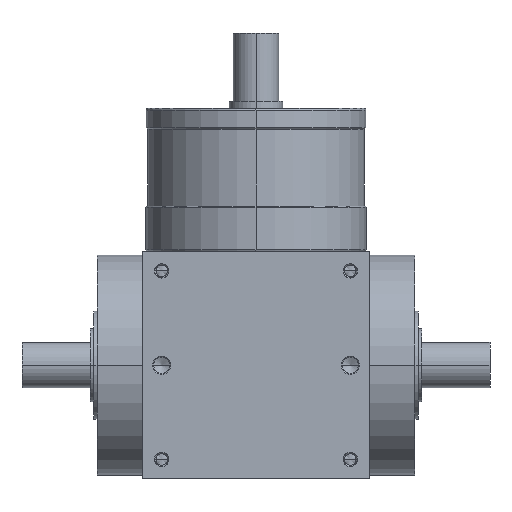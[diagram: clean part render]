
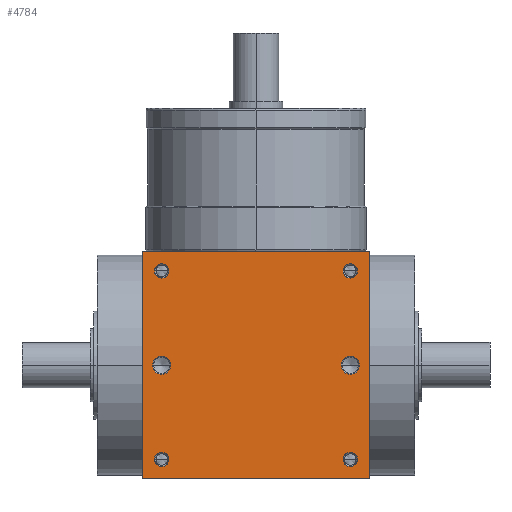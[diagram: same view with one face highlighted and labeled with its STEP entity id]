
A CAD part, front view. The second image highlights one B-rep face of the part: STEP entity #4784.
In plain terms, the highlighted planar face has unit normal (0, -1, 0).
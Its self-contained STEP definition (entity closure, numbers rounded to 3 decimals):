
#5=DIRECTION('',(1.,0.,0.));
#6=VECTOR('',#5,65.);
#7=CARTESIAN_POINT('',(-32.5,-32.5,-32.5));
#8=LINE('',#7,#6);
#155=DIRECTION('',(0.,0.,1.));
#156=VECTOR('',#155,65.);
#157=CARTESIAN_POINT('',(32.5,-32.5,-32.5));
#158=LINE('',#157,#156);
#209=DIRECTION('',(0.,0.,1.));
#210=VECTOR('',#209,65.);
#211=CARTESIAN_POINT('',(-32.5,-32.5,-32.5));
#212=LINE('',#211,#210);
#213=CARTESIAN_POINT('',(27.,-32.5,27.));
#214=DIRECTION('',(0.,1.,0.));
#215=DIRECTION('',(-1.,0.,0.));
#216=AXIS2_PLACEMENT_3D('',#213,#214,#215);
#218=CARTESIAN_POINT('',(27.,-32.5,27.));
#219=DIRECTION('',(0.,1.,0.));
#220=DIRECTION('',(1.,0.,0.));
#221=AXIS2_PLACEMENT_3D('',#218,#219,#220);
#223=CARTESIAN_POINT('',(-27.,-32.5,27.));
#224=DIRECTION('',(0.,1.,0.));
#225=DIRECTION('',(-1.,0.,0.));
#226=AXIS2_PLACEMENT_3D('',#223,#224,#225);
#228=CARTESIAN_POINT('',(-27.,-32.5,27.));
#229=DIRECTION('',(0.,1.,0.));
#230=DIRECTION('',(1.,0.,0.));
#231=AXIS2_PLACEMENT_3D('',#228,#229,#230);
#233=CARTESIAN_POINT('',(27.,-32.5,-27.));
#234=DIRECTION('',(0.,1.,0.));
#235=DIRECTION('',(-1.,0.,0.));
#236=AXIS2_PLACEMENT_3D('',#233,#234,#235);
#238=CARTESIAN_POINT('',(27.,-32.5,-27.));
#239=DIRECTION('',(0.,1.,0.));
#240=DIRECTION('',(1.,0.,0.));
#241=AXIS2_PLACEMENT_3D('',#238,#239,#240);
#243=CARTESIAN_POINT('',(-27.,-32.5,-27.));
#244=DIRECTION('',(0.,1.,0.));
#245=DIRECTION('',(-1.,0.,0.));
#246=AXIS2_PLACEMENT_3D('',#243,#244,#245);
#248=CARTESIAN_POINT('',(-27.,-32.5,-27.));
#249=DIRECTION('',(0.,1.,0.));
#250=DIRECTION('',(1.,0.,0.));
#251=AXIS2_PLACEMENT_3D('',#248,#249,#250);
#253=CARTESIAN_POINT('',(-27.,-32.5,0.));
#254=DIRECTION('',(0.,1.,0.));
#255=DIRECTION('',(1.,0.,0.));
#256=AXIS2_PLACEMENT_3D('',#253,#254,#255);
#258=CARTESIAN_POINT('',(-27.,-32.5,0.));
#259=DIRECTION('',(0.,1.,0.));
#260=DIRECTION('',(-1.,0.,0.));
#261=AXIS2_PLACEMENT_3D('',#258,#259,#260);
#263=CARTESIAN_POINT('',(27.,-32.5,0.));
#264=DIRECTION('',(0.,1.,0.));
#265=DIRECTION('',(1.,0.,0.));
#266=AXIS2_PLACEMENT_3D('',#263,#264,#265);
#268=CARTESIAN_POINT('',(27.,-32.5,0.));
#269=DIRECTION('',(0.,1.,0.));
#270=DIRECTION('',(-1.,0.,0.));
#271=AXIS2_PLACEMENT_3D('',#268,#269,#270);
#285=DIRECTION('',(1.,0.,0.));
#286=VECTOR('',#285,65.);
#287=CARTESIAN_POINT('',(-32.5,-32.5,32.5));
#288=LINE('',#287,#286);
#3820=CARTESIAN_POINT('',(-32.5,-32.5,-32.5));
#3822=VERTEX_POINT('',#3820);
#3823=CARTESIAN_POINT('',(32.5,-32.5,-32.5));
#3824=VERTEX_POINT('',#3823);
#3828=CARTESIAN_POINT('',(-32.5,-32.5,32.5));
#3830=VERTEX_POINT('',#3828);
#3831=CARTESIAN_POINT('',(32.5,-32.5,32.5));
#3832=VERTEX_POINT('',#3831);
#4011=CARTESIAN_POINT('',(24.95,-32.5,27.));
#4012=CARTESIAN_POINT('',(29.05,-32.5,27.));
#4013=VERTEX_POINT('',#4011);
#4014=VERTEX_POINT('',#4012);
#4019=CARTESIAN_POINT('',(-29.05,-32.5,27.));
#4020=CARTESIAN_POINT('',(-24.95,-32.5,27.));
#4021=VERTEX_POINT('',#4019);
#4022=VERTEX_POINT('',#4020);
#4027=CARTESIAN_POINT('',(24.95,-32.5,-27.));
#4028=CARTESIAN_POINT('',(29.05,-32.5,-27.));
#4029=VERTEX_POINT('',#4027);
#4030=VERTEX_POINT('',#4028);
#4035=CARTESIAN_POINT('',(-29.05,-32.5,-27.));
#4036=CARTESIAN_POINT('',(-24.95,-32.5,-27.));
#4037=VERTEX_POINT('',#4035);
#4038=VERTEX_POINT('',#4036);
#4395=CARTESIAN_POINT('',(-24.4,-32.5,0.));
#4396=CARTESIAN_POINT('',(-29.6,-32.5,0.));
#4397=VERTEX_POINT('',#4395);
#4398=VERTEX_POINT('',#4396);
#4403=CARTESIAN_POINT('',(29.6,-32.5,0.));
#4404=CARTESIAN_POINT('',(24.4,-32.5,0.));
#4405=VERTEX_POINT('',#4403);
#4406=VERTEX_POINT('',#4404);
#4736=CARTESIAN_POINT('',(-32.5,-32.5,-32.5));
#4737=DIRECTION('',(0.,-1.,0.));
#4738=DIRECTION('',(1.,0.,0.));
#4739=AXIS2_PLACEMENT_3D('',#4736,#4737,#4738);
#4740=PLANE('',#4739);
#4741=ORIENTED_EDGE('',*,*,#4576,.F.);
#4742=ORIENTED_EDGE('',*,*,#4619,.T.);
#4744=ORIENTED_EDGE('',*,*,#4743,.T.);
#4745=ORIENTED_EDGE('',*,*,#4698,.F.);
#4746=EDGE_LOOP('',(#4741,#4742,#4744,#4745));
#4747=FACE_OUTER_BOUND('',#4746,.F.);
#4749=ORIENTED_EDGE('',*,*,#4748,.F.);
#4751=ORIENTED_EDGE('',*,*,#4750,.F.);
#4752=EDGE_LOOP('',(#4749,#4751));
#4753=FACE_BOUND('',#4752,.F.);
#4755=ORIENTED_EDGE('',*,*,#4754,.F.);
#4757=ORIENTED_EDGE('',*,*,#4756,.F.);
#4758=EDGE_LOOP('',(#4755,#4757));
#4759=FACE_BOUND('',#4758,.F.);
#4761=ORIENTED_EDGE('',*,*,#4760,.F.);
#4763=ORIENTED_EDGE('',*,*,#4762,.F.);
#4764=EDGE_LOOP('',(#4761,#4763));
#4765=FACE_BOUND('',#4764,.F.);
#4767=ORIENTED_EDGE('',*,*,#4766,.F.);
#4769=ORIENTED_EDGE('',*,*,#4768,.F.);
#4770=EDGE_LOOP('',(#4767,#4769));
#4771=FACE_BOUND('',#4770,.F.);
#4773=ORIENTED_EDGE('',*,*,#4772,.F.);
#4775=ORIENTED_EDGE('',*,*,#4774,.F.);
#4776=EDGE_LOOP('',(#4773,#4775));
#4777=FACE_BOUND('',#4776,.F.);
#4779=ORIENTED_EDGE('',*,*,#4778,.F.);
#4781=ORIENTED_EDGE('',*,*,#4780,.F.);
#4782=EDGE_LOOP('',(#4779,#4781));
#4783=FACE_BOUND('',#4782,.F.);
#4784=ADVANCED_FACE('',(#4747,#4753,#4759,#4765,#4771,#4777,#4783),#4740,.T.);
#217=CIRCLE('',#216,2.05);
#222=CIRCLE('',#221,2.05);
#227=CIRCLE('',#226,2.05);
#232=CIRCLE('',#231,2.05);
#237=CIRCLE('',#236,2.05);
#242=CIRCLE('',#241,2.05);
#247=CIRCLE('',#246,2.05);
#252=CIRCLE('',#251,2.05);
#257=CIRCLE('',#256,2.6);
#262=CIRCLE('',#261,2.6);
#267=CIRCLE('',#266,2.6);
#272=CIRCLE('',#271,2.6);
#4576=EDGE_CURVE('',#3822,#3824,#8,.T.);
#4619=EDGE_CURVE('',#3822,#3830,#212,.T.);
#4698=EDGE_CURVE('',#3824,#3832,#158,.T.);
#4743=EDGE_CURVE('',#3830,#3832,#288,.T.);
#4748=EDGE_CURVE('',#4013,#4014,#217,.T.);
#4750=EDGE_CURVE('',#4014,#4013,#222,.T.);
#4754=EDGE_CURVE('',#4021,#4022,#227,.T.);
#4756=EDGE_CURVE('',#4022,#4021,#232,.T.);
#4760=EDGE_CURVE('',#4029,#4030,#237,.T.);
#4762=EDGE_CURVE('',#4030,#4029,#242,.T.);
#4766=EDGE_CURVE('',#4037,#4038,#247,.T.);
#4768=EDGE_CURVE('',#4038,#4037,#252,.T.);
#4772=EDGE_CURVE('',#4397,#4398,#257,.T.);
#4774=EDGE_CURVE('',#4398,#4397,#262,.T.);
#4778=EDGE_CURVE('',#4405,#4406,#267,.T.);
#4780=EDGE_CURVE('',#4406,#4405,#272,.T.);
